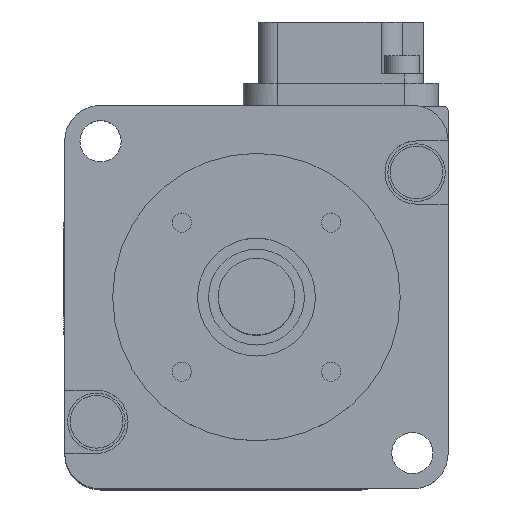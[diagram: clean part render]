
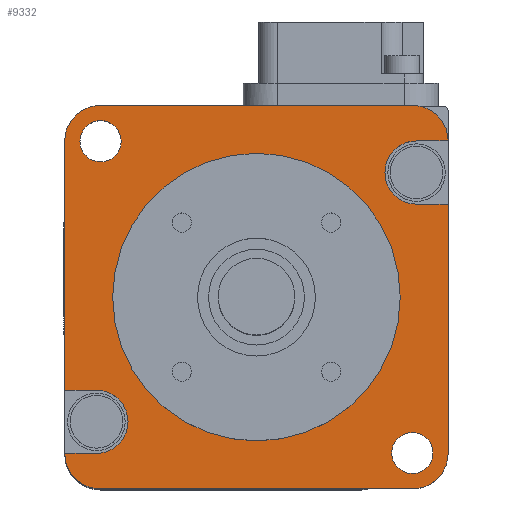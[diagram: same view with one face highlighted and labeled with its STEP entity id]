
A CAD part, top view. The second image highlights one B-rep face of the part: STEP entity #9332.
In plain terms, the highlighted planar face has unit normal (0, 0, 1).
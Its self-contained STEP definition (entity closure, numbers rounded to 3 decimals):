
#1586=DIRECTION('',(0.,-1.,0.));
#1587=VECTOR('',#1586,26.);
#1588=CARTESIAN_POINT('',(20.,9.7,68.5));
#1589=LINE('',#1588,#1587);
#1668=DIRECTION('',(-1.,0.,0.));
#1669=VECTOR('',#1668,32.6);
#1670=CARTESIAN_POINT('',(16.3,-20.,68.5));
#1671=LINE('',#1670,#1669);
#1692=DIRECTION('',(0.,1.,0.));
#1693=VECTOR('',#1692,26.);
#1694=CARTESIAN_POINT('',(-20.,-9.7,68.5));
#1695=LINE('',#1694,#1693);
#1720=CARTESIAN_POINT('',(-16.3,-16.3,68.5));
#1721=DIRECTION('',(0.,0.,1.));
#1722=DIRECTION('',(-1.,0.,0.));
#1723=AXIS2_PLACEMENT_3D('',#1720,#1721,#1722);
#1725=CARTESIAN_POINT('',(-16.7,-13.,68.5));
#1726=DIRECTION('',(0.,0.,-1.));
#1727=DIRECTION('',(0.,1.,0.));
#1728=AXIS2_PLACEMENT_3D('',#1725,#1726,#1727);
#1730=CARTESIAN_POINT('',(-16.3,16.3,68.5));
#1731=DIRECTION('',(0.,0.,1.));
#1732=DIRECTION('',(0.,1.,0.));
#1733=AXIS2_PLACEMENT_3D('',#1730,#1731,#1732);
#1735=DIRECTION('',(-1.,0.,0.));
#1736=VECTOR('',#1735,32.6);
#1737=CARTESIAN_POINT('',(16.3,20.,68.5));
#1738=LINE('',#1737,#1736);
#1739=CARTESIAN_POINT('',(16.3,16.3,68.5));
#1740=DIRECTION('',(0.,0.,1.));
#1741=DIRECTION('',(1.,0.,0.));
#1742=AXIS2_PLACEMENT_3D('',#1739,#1740,#1741);
#1744=CARTESIAN_POINT('',(16.7,13.,68.5));
#1745=DIRECTION('',(0.,0.,-1.));
#1746=DIRECTION('',(0.,-1.,0.));
#1747=AXIS2_PLACEMENT_3D('',#1744,#1745,#1746);
#1749=CARTESIAN_POINT('',(16.3,-16.3,68.5));
#1750=DIRECTION('',(0.,0.,1.));
#1751=DIRECTION('',(0.,-1.,0.));
#1752=AXIS2_PLACEMENT_3D('',#1749,#1750,#1751);
#1754=CARTESIAN_POINT('',(0.,0.,68.5));
#1755=DIRECTION('',(0.,0.,-1.));
#1756=DIRECTION('',(0.,1.,0.));
#1757=AXIS2_PLACEMENT_3D('',#1754,#1755,#1756);
#1759=CARTESIAN_POINT('',(0.,0.,68.5));
#1760=DIRECTION('',(0.,0.,-1.));
#1761=DIRECTION('',(0.,-1.,0.));
#1762=AXIS2_PLACEMENT_3D('',#1759,#1760,#1761);
#1764=CARTESIAN_POINT('',(-16.263,16.263,68.5));
#1765=DIRECTION('',(0.,0.,-1.));
#1766=DIRECTION('',(-1.,0.,0.));
#1767=AXIS2_PLACEMENT_3D('',#1764,#1765,#1766);
#1769=CARTESIAN_POINT('',(-16.263,16.263,68.5));
#1770=DIRECTION('',(0.,0.,-1.));
#1771=DIRECTION('',(1.,0.,0.));
#1772=AXIS2_PLACEMENT_3D('',#1769,#1770,#1771);
#1774=CARTESIAN_POINT('',(16.263,-16.263,68.5));
#1775=DIRECTION('',(0.,0.,-1.));
#1776=DIRECTION('',(-1.,0.,0.));
#1777=AXIS2_PLACEMENT_3D('',#1774,#1775,#1776);
#1779=CARTESIAN_POINT('',(16.263,-16.263,68.5));
#1780=DIRECTION('',(0.,0.,-1.));
#1781=DIRECTION('',(1.,0.,0.));
#1782=AXIS2_PLACEMENT_3D('',#1779,#1780,#1781);
#1788=DIRECTION('',(-1.,0.,0.));
#1789=VECTOR('',#1788,3.3);
#1790=CARTESIAN_POINT('',(-16.7,-16.3,68.5));
#1791=LINE('',#1790,#1789);
#1815=DIRECTION('',(1.,0.,0.));
#1816=VECTOR('',#1815,3.3);
#1817=CARTESIAN_POINT('',(-20.,-9.7,68.5));
#1818=LINE('',#1817,#1816);
#1877=DIRECTION('',(1.,0.,0.));
#1878=VECTOR('',#1877,3.3);
#1879=CARTESIAN_POINT('',(16.7,16.3,68.5));
#1880=LINE('',#1879,#1878);
#1912=DIRECTION('',(-1.,0.,0.));
#1913=VECTOR('',#1912,3.3);
#1914=CARTESIAN_POINT('',(20.,9.7,68.5));
#1915=LINE('',#1914,#1913);
#4614=CARTESIAN_POINT('',(0.,15.,68.5));
#4615=CARTESIAN_POINT('',(0.,-15.,68.5));
#4616=VERTEX_POINT('',#4614);
#4617=VERTEX_POINT('',#4615);
#5000=CARTESIAN_POINT('',(16.3,20.,68.5));
#5001=VERTEX_POINT('',#5000);
#5003=CARTESIAN_POINT('',(-16.3,20.,68.5));
#5005=VERTEX_POINT('',#5003);
#5208=CARTESIAN_POINT('',(-14.113,16.263,68.5));
#5209=VERTEX_POINT('',#5208);
#5210=CARTESIAN_POINT('',(-18.413,16.263,68.5));
#5211=VERTEX_POINT('',#5210);
#5212=CARTESIAN_POINT('',(18.413,-16.263,68.5));
#5213=VERTEX_POINT('',#5212);
#5214=CARTESIAN_POINT('',(14.113,-16.263,68.5));
#5215=VERTEX_POINT('',#5214);
#5218=CARTESIAN_POINT('',(-20.,-16.3,68.5));
#5219=VERTEX_POINT('',#5218);
#5220=CARTESIAN_POINT('',(-16.3,-20.,68.5));
#5221=VERTEX_POINT('',#5220);
#5232=CARTESIAN_POINT('',(-20.,16.3,68.5));
#5233=VERTEX_POINT('',#5232);
#5234=CARTESIAN_POINT('',(-20.,-9.7,68.5));
#5236=VERTEX_POINT('',#5234);
#5367=CARTESIAN_POINT('',(20.,-16.3,68.5));
#5368=VERTEX_POINT('',#5367);
#5369=CARTESIAN_POINT('',(20.,9.7,68.5));
#5371=VERTEX_POINT('',#5369);
#5397=CARTESIAN_POINT('',(16.3,-20.,68.5));
#5398=VERTEX_POINT('',#5397);
#5552=CARTESIAN_POINT('',(16.7,9.7,68.5));
#5553=VERTEX_POINT('',#5552);
#5556=CARTESIAN_POINT('',(16.7,16.3,68.5));
#5557=VERTEX_POINT('',#5556);
#5558=CARTESIAN_POINT('',(20.,16.3,68.5));
#5559=VERTEX_POINT('',#5558);
#5596=CARTESIAN_POINT('',(-16.7,-9.7,68.5));
#5597=VERTEX_POINT('',#5596);
#5598=CARTESIAN_POINT('',(-16.7,-16.3,68.5));
#5599=VERTEX_POINT('',#5598);
#9286=CARTESIAN_POINT('',(0.,0.,68.5));
#9287=DIRECTION('',(0.,0.,1.));
#9288=DIRECTION('',(0.,1.,0.));
#9289=AXIS2_PLACEMENT_3D('',#9286,#9287,#9288);
#9290=PLANE('',#9289);
#9291=ORIENTED_EDGE('',*,*,#9161,.F.);
#9293=ORIENTED_EDGE('',*,*,#9292,.F.);
#9295=ORIENTED_EDGE('',*,*,#9294,.F.);
#9297=ORIENTED_EDGE('',*,*,#9296,.F.);
#9298=ORIENTED_EDGE('',*,*,#9189,.T.);
#9299=ORIENTED_EDGE('',*,*,#9268,.F.);
#9300=ORIENTED_EDGE('',*,*,#8874,.F.);
#9301=ORIENTED_EDGE('',*,*,#8904,.F.);
#9303=ORIENTED_EDGE('',*,*,#9302,.F.);
#9305=ORIENTED_EDGE('',*,*,#9304,.F.);
#9307=ORIENTED_EDGE('',*,*,#9306,.F.);
#9308=ORIENTED_EDGE('',*,*,#8933,.T.);
#9310=ORIENTED_EDGE('',*,*,#9309,.F.);
#9311=ORIENTED_EDGE('',*,*,#9131,.T.);
#9312=EDGE_LOOP('',(#9291,#9293,#9295,#9297,#9298,#9299,#9300,#9301,#9303,#9305,
#9307,#9308,#9310,#9311));
#9313=FACE_OUTER_BOUND('',#9312,.F.);
#9315=ORIENTED_EDGE('',*,*,#9314,.F.);
#9317=ORIENTED_EDGE('',*,*,#9316,.F.);
#9318=EDGE_LOOP('',(#9315,#9317));
#9319=FACE_BOUND('',#9318,.F.);
#9321=ORIENTED_EDGE('',*,*,#9320,.F.);
#9323=ORIENTED_EDGE('',*,*,#9322,.F.);
#9324=EDGE_LOOP('',(#9321,#9323));
#9325=FACE_BOUND('',#9324,.F.);
#9327=ORIENTED_EDGE('',*,*,#9326,.F.);
#9329=ORIENTED_EDGE('',*,*,#9328,.F.);
#9330=EDGE_LOOP('',(#9327,#9329));
#9331=FACE_BOUND('',#9330,.F.);
#9332=ADVANCED_FACE('',(#9313,#9319,#9325,#9331),#9290,.T.);
#1724=CIRCLE('',#1723,3.7);
#1729=CIRCLE('',#1728,3.3);
#1734=CIRCLE('',#1733,3.7);
#1743=CIRCLE('',#1742,3.7);
#1748=CIRCLE('',#1747,3.3);
#1753=CIRCLE('',#1752,3.7);
#1758=CIRCLE('',#1757,15.);
#1763=CIRCLE('',#1762,15.);
#1768=CIRCLE('',#1767,2.15);
#1773=CIRCLE('',#1772,2.15);
#1778=CIRCLE('',#1777,2.15);
#1783=CIRCLE('',#1782,2.15);
#8874=EDGE_CURVE('',#5001,#5005,#1738,.T.);
#8904=EDGE_CURVE('',#5559,#5001,#1743,.T.);
#8933=EDGE_CURVE('',#5371,#5368,#1589,.T.);
#9131=EDGE_CURVE('',#5398,#5221,#1671,.T.);
#9161=EDGE_CURVE('',#5219,#5221,#1724,.T.);
#9189=EDGE_CURVE('',#5236,#5233,#1695,.T.);
#9268=EDGE_CURVE('',#5005,#5233,#1734,.T.);
#9292=EDGE_CURVE('',#5599,#5219,#1791,.T.);
#9294=EDGE_CURVE('',#5597,#5599,#1729,.T.);
#9296=EDGE_CURVE('',#5236,#5597,#1818,.T.);
#9302=EDGE_CURVE('',#5557,#5559,#1880,.T.);
#9304=EDGE_CURVE('',#5553,#5557,#1748,.T.);
#9306=EDGE_CURVE('',#5371,#5553,#1915,.T.);
#9309=EDGE_CURVE('',#5398,#5368,#1753,.T.);
#9314=EDGE_CURVE('',#4616,#4617,#1758,.T.);
#9316=EDGE_CURVE('',#4617,#4616,#1763,.T.);
#9320=EDGE_CURVE('',#5211,#5209,#1768,.T.);
#9322=EDGE_CURVE('',#5209,#5211,#1773,.T.);
#9326=EDGE_CURVE('',#5215,#5213,#1778,.T.);
#9328=EDGE_CURVE('',#5213,#5215,#1783,.T.);
